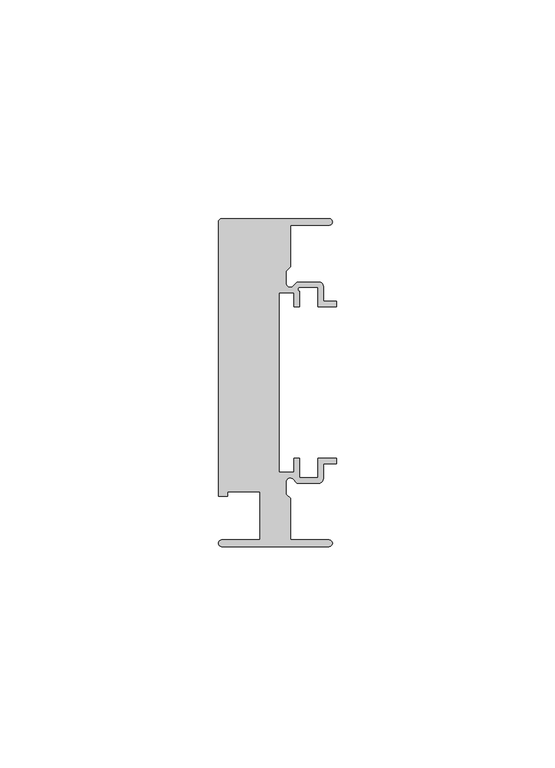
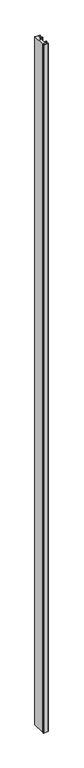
"""IFC4 building model written with IfcOpenShell, lengths in millimetres: member geometry, Прямоугольный импост : 5-AMG-1-Профиль 26Х75 Низ Л."""

from ifc_helpers import new_model, si_unit, point, frame, frame_2d, origin, place, context, project, spatial, polyline, circle_curve, trimmed, segment, composite_curve, outline, extrude, source, transform, mapped, element, save


def member_4e2aeb8b(model_context):
    return source(origin(), model_context, "Body", "SweptSolid", [
        extrude(outline(composite_curve([segment(polyline([(-1.7, -37.5), (-26.25, -37.5)]), True, "CONTINUOUS"), segment(trimmed(circle_curve(frame_2d((-26.25, -36.75)), 0.75), [point((-26.25, -37.5))], [point((-26.25, -36.0))], False, "CARTESIAN"), True, "CONTINUOUS"), segment(polyline([(-26.25, -36.0), (-17.5, -36.0), (-17.5, -25.0), (-24.9359877, -25.0), (-24.9359877, -26.0), (-27.0, -26.0), (-27.0, 36.75)]), True, "CONTINUOUS"), segment(trimmed(circle_curve(frame_2d((-26.25, 36.75)), 0.75), [point((-27.0, 36.75))], [point((-26.25, 37.5))], False, "CARTESIAN"), True, "CONTINUOUS"), segment(polyline([(-26.25, 37.5), (-1.7, 37.5)]), True, "CONTINUOUS"), segment(trimmed(circle_curve(frame_2d((-1.7, 36.75)), 0.75), [point((-1.7, 37.5))], [point((-1.7, 36.0))], False, "CARTESIAN"), True, "CONTINUOUS"), segment(polyline([(-1.7, 36.0), (-10.5, 36.0), (-10.5, 26.5029437), (-11.5, 25.5029437), (-11.5, 22.6727922)]), True, "CONTINUOUS"), segment(trimmed(circle_curve(frame_2d((-10.6, 22.6727922)), 0.9), [point((-11.5, 22.6727922))], [point((-9.9636039, 22.0363961))], True, "CARTESIAN"), True, "CONTINUOUS"), segment(polyline([(-9.9636039, 22.0363961), (-9.0, 23.0), (-4.0, 23.0)]), True, "CONTINUOUS"), segment(trimmed(circle_curve(frame_2d((-4.0, 22.0)), 1.0), [point((-4.0, 23.0))], [point((-3.0, 22.0))], False, "CARTESIAN"), True, "CONTINUOUS"), segment(polyline([(-3.0, 22.0), (-3.0, 18.55), (0.0, 18.55), (0.0, 17.35), (-4.2, 17.35), (-4.2, 21.8), (-8.5029437, 21.8)]), True, "CONTINUOUS"), segment(trimmed(circle_curve(frame_2d((-8.3343131, 21.3314262)), 0.4979937), [point((-8.5029437, 21.8))], [point((-8.45, 20.8470563))], True, "CARTESIAN"), True, "CONTINUOUS"), segment(polyline([(-8.45, 20.8470563), (-8.45, 17.35), (-9.65, 17.35), (-9.65, 20.55), (-13.15, 20.55), (-13.15, -20.55), (-9.65, -20.55), (-9.65, -17.35), (-8.45, -17.35), (-8.45, -21.8), (-4.2, -21.8), (-4.2, -17.35), (0.0, -17.35), (0.0, -18.55), (-3.0, -18.55), (-3.0, -22.0)]), True, "CONTINUOUS"), segment(trimmed(circle_curve(frame_2d((-4.0, -22.0)), 1.0), [point((-3.0, -22.0))], [point((-4.0, -23.0))], False, "CARTESIAN"), True, "CONTINUOUS"), segment(polyline([(-4.0, -23.0), (-9.0, -23.0), (-9.9636039, -22.0363961)]), True, "CONTINUOUS"), segment(trimmed(circle_curve(frame_2d((-10.6, -22.6727922)), 0.9), [point((-9.9636039, -22.0363961))], [point((-11.5, -22.6727922))], True, "CARTESIAN"), True, "CONTINUOUS"), segment(polyline([(-11.5, -22.6727922), (-11.5, -25.5029437), (-10.5, -26.5029437), (-10.5, -36.0), (-1.7, -36.0)]), True, "CONTINUOUS"), segment(trimmed(circle_curve(frame_2d((-1.7, -36.75)), 0.75), [point((-1.7, -36.0))], [point((-1.7, -37.5))], False, "CARTESIAN"), True, "CONTINUOUS")], self_intersect=False)), frame((0.0, 0.0, -3696.0), z_axis=(0.0, 0.0, 1.0), x_axis=(1.0, 0.0, 0.0)), (0.0, 0.0, 1.0), 3696.0),
    ])


if __name__ == "__main__":
    model = new_model("IFC4")
    model_context = context("Model", 3, world=origin())
    ifc_project = project(units=[si_unit("LENGTHUNIT", "METRE", prefix="MILLI")], contexts=[model_context])
    site = spatial("IfcSite", under=ifc_project)
    building = spatial("IfcBuilding", under=site)
    placement = place(None, origin())
    member_shape = member_4e2aeb8b(model_context)
    element("IfcMember", 1, ObjectType="Прямоугольный импост : 5-AMG-1-Профиль 26Х75 Низ Л", at=placement, inside=building, context=model_context, shape_type="MappedRepresentation", body=[
        mapped(member_shape, transform((0.0, 0.0, 0.0), x_axis=(1.0, 0.0, 0.0), y_axis=(0.0, 1.0, 0.0), z_axis=(0.0, 0.0, 1.0))),
    ])
    save(model, "model.ifc")
